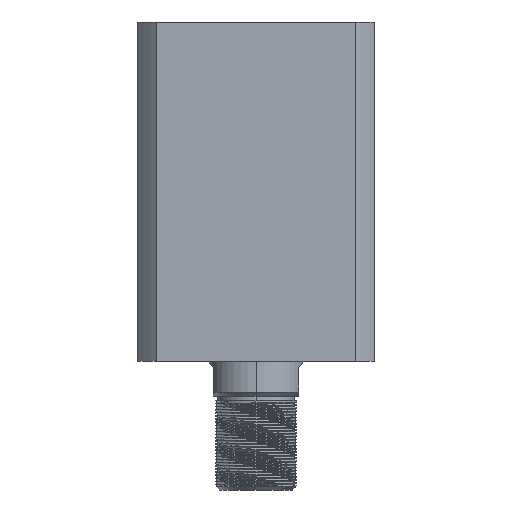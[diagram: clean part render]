
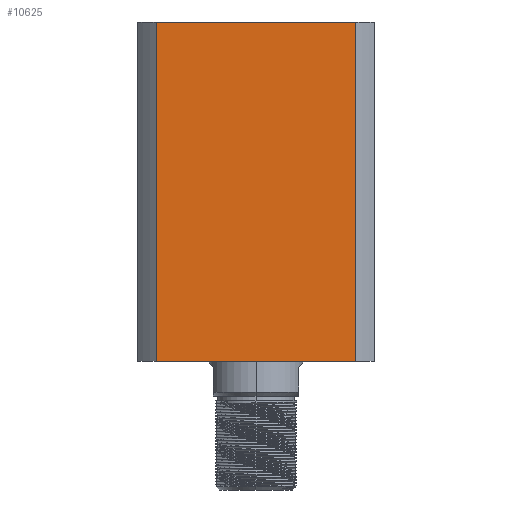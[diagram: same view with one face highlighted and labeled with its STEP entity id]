
A CAD part, front view. The second image highlights one B-rep face of the part: STEP entity #10625.
In plain terms, the highlighted planar face has unit normal (0, -1, 0) as drawn and (1, 0, 0) by its records, which use the part's own axes.
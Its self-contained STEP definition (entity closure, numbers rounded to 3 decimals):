
#712 = CARTESIAN_POINT ( 'NONE',  ( 57., 57., 0. ) ) ;
#787 = DIRECTION ( 'NONE',  ( 0., 1., 0. ) ) ;
#1543 = VECTOR ( 'NONE', #6606, 1000. ) ;
#1965 = AXIS2_PLACEMENT_3D ( 'NONE', #10172, #2297, #13349 ) ;
#2297 = DIRECTION ( 'NONE',  ( -1., 0., 0. ) ) ;
#2771 = VECTOR ( 'NONE', #787, 1000. ) ;
#3059 = EDGE_CURVE ( 'NONE', #11250, #9596, #12983, .T. ) ;
#4999 = VECTOR ( 'NONE', #7922, 1000. ) ;
#5147 = ORIENTED_EDGE ( 'NONE', *, *, #17924, .F. ) ;
#6606 = DIRECTION ( 'NONE',  ( 0., 0., -1. ) ) ;
#7922 = DIRECTION ( 'NONE',  ( 0., 1., 0. ) ) ;
#8584 = PLANE ( 'NONE',  #1965 ) ;
#9346 = ORIENTED_EDGE ( 'NONE', *, *, #3059, .F. ) ;
#9596 = VERTEX_POINT ( 'NONE', #13526 ) ;
#9834 = CARTESIAN_POINT ( 'NONE',  ( 57., 47.971, 0. ) ) ;
#9945 = LINE ( 'NONE', #14470, #1543 ) ;
#10172 = CARTESIAN_POINT ( 'NONE',  ( 57., 57., 163. ) ) ;
#10625 = ADVANCED_FACE ( 'NONE', ( #14191 ), #8584, .F. ) ;
#11169 = LINE ( 'NONE', #712, #2771 ) ;
#11250 = VERTEX_POINT ( 'NONE', #16339 ) ;
#11816 = ORIENTED_EDGE ( 'NONE', *, *, #17483, .T. ) ;
#11995 = VECTOR ( 'NONE', #20441, 1000. ) ;
#12590 = EDGE_LOOP ( 'NONE', ( #9346, #11816, #17167, #5147 ) ) ;
#12881 = LINE ( 'NONE', #18977, #4999 ) ;
#12983 = LINE ( 'NONE', #18860, #11995 ) ;
#13349 = DIRECTION ( 'NONE',  ( 0., -1., 0. ) ) ;
#13526 = CARTESIAN_POINT ( 'NONE',  ( 57., -47.971, 163. ) ) ;
#14191 = FACE_OUTER_BOUND ( 'NONE', #12590, .T. ) ;
#14470 = CARTESIAN_POINT ( 'NONE',  ( 57., 47.971, -137. ) ) ;
#15675 = CARTESIAN_POINT ( 'NONE',  ( 57., 47.971, 163. ) ) ;
#15708 = EDGE_CURVE ( 'NONE', #19528, #18036, #9945, .T. ) ;
#16339 = CARTESIAN_POINT ( 'NONE',  ( 57., -47.971, 0. ) ) ;
#17167 = ORIENTED_EDGE ( 'NONE', *, *, #15708, .F. ) ;
#17483 = EDGE_CURVE ( 'NONE', #11250, #18036, #11169, .T. ) ;
#17924 = EDGE_CURVE ( 'NONE', #9596, #19528, #12881, .T. ) ;
#18036 = VERTEX_POINT ( 'NONE', #9834 ) ;
#18860 = CARTESIAN_POINT ( 'NONE',  ( 57., -47.971, -137. ) ) ;
#18977 = CARTESIAN_POINT ( 'NONE',  ( 57., 57., 163. ) ) ;
#19528 = VERTEX_POINT ( 'NONE', #15675 ) ;
#20441 = DIRECTION ( 'NONE',  ( 0., 0., 1. ) ) ;
